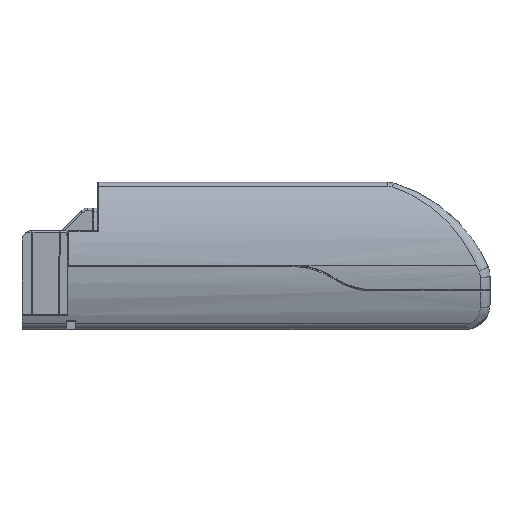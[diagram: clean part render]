
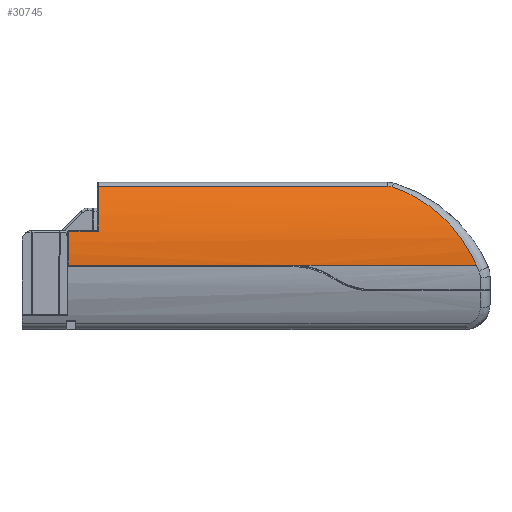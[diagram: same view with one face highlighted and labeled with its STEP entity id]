
A CAD part, top view. The second image highlights one B-rep face of the part: STEP entity #30745.
In plain terms, the highlighted cylindrical face has radius 26.4 mm (diameter 52.8 mm), a partial arc.
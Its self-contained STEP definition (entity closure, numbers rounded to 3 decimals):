
#232 = CARTESIAN_POINT ( 'NONE',  ( 79.9, 21.403, 0.24 ) ) ;
#3151 = CARTESIAN_POINT ( 'NONE',  ( 73.664, 24.373, -1.705 ) ) ;
#3645 = CARTESIAN_POINT ( 'NONE',  ( 90.76, 8.5, 3.6 ) ) ;
#4077 = CARTESIAN_POINT ( 'NONE',  ( 93.5, 8.5, 3.6 ) ) ;
#4116 = CIRCLE ( 'NONE', #54507, 26.4 ) ;
#5064 = CARTESIAN_POINT ( 'NONE',  ( 75.585, 23.741, -1.229 ) ) ;
#8663 = DIRECTION ( 'NONE',  ( -1., 0., 0. ) ) ;
#9399 = ORIENTED_EDGE ( 'NONE', *, *, #58933, .F. ) ;
#9592 = CARTESIAN_POINT ( 'NONE',  ( 87.45, 14.229, 2.974 ) ) ;
#10518 = VECTOR ( 'NONE', #21592, 1000. ) ;
#11956 = B_SPLINE_CURVE_WITH_KNOTS ( 'NONE', 3,
 ( #21889, #12443, #59165, #54843 ),
 .UNSPECIFIED., .F., .F.,
 ( 4, 4 ),
 ( 0., 0.001 ),
 .UNSPECIFIED. ) ;
#12144 = CARTESIAN_POINT ( 'NONE',  ( 14., 8.5, -22.8 ) ) ;
#12443 = CARTESIAN_POINT ( 'NONE',  ( 73.384, 24.465, -1.774 ) ) ;
#14352 = ORIENTED_EDGE ( 'NONE', *, *, #50816, .T. ) ;
#14388 = CARTESIAN_POINT ( 'NONE',  ( 86.516, 15.436, 2.676 ) ) ;
#16075 = CARTESIAN_POINT ( 'NONE',  ( 93.5, 15.352, 2.695 ) ) ;
#16290 = CARTESIAN_POINT ( 'NONE',  ( 14., 24.513, -1.811 ) ) ;
#16922 = DIRECTION ( 'NONE',  ( 0., 0., -1. ) ) ;
#18774 = B_SPLINE_CURVE_WITH_KNOTS ( 'NONE', 3,
 ( #27325, #27529, #37038, #9592, #42648, #14388, #47314, #19172, #52033, #23839, #56757, #28598, #232, #33340, #5064, #38103 ),
 .UNSPECIFIED., .F., .F.,
 ( 4, 2, 2, 2, 2, 2, 2, 4 ),
 ( 0.001, 0.007, 0.009, 0.01, 0.014, 0.017, 0.02, 0.026 ),
 .UNSPECIFIED. ) ;
#19172 = CARTESIAN_POINT ( 'NONE',  ( 85.204, 16.957, 2.221 ) ) ;
#20163 = ORIENTED_EDGE ( 'NONE', *, *, #55474, .T. ) ;
#20910 = CARTESIAN_POINT ( 'NONE',  ( 93.5, 8.5, -22.8 ) ) ;
#21592 = DIRECTION ( 'NONE',  ( -1., 0., 0. ) ) ;
#21889 = CARTESIAN_POINT ( 'NONE',  ( 73.664, 24.373, -1.705 ) ) ;
#22348 = DIRECTION ( 'NONE',  ( -1., 0., 0. ) ) ;
#22512 = EDGE_CURVE ( 'NONE', #34370, #29934, #28576, .T. ) ;
#23839 = CARTESIAN_POINT ( 'NONE',  ( 83.062, 19.022, 1.424 ) ) ;
#24838 = ORIENTED_EDGE ( 'NONE', *, *, #40024, .T. ) ;
#26034 = VERTEX_POINT ( 'NONE', #49719 ) ;
#26050 = EDGE_CURVE ( 'NONE', #40002, #40979, #11956, .T. ) ;
#27325 = CARTESIAN_POINT ( 'NONE',  ( 90.76, 8.5, 3.6 ) ) ;
#27529 = CARTESIAN_POINT ( 'NONE',  ( 89.924, 10.384, 3.6 ) ) ;
#27725 = VERTEX_POINT ( 'NONE', #3645 ) ;
#27973 = CYLINDRICAL_SURFACE ( 'NONE', #54236, 26.4 ) ;
#28226 = DIRECTION ( 'NONE',  ( 1., 0., 0. ) ) ;
#28576 = CIRCLE ( 'NONE', #48911, 26.4 ) ;
#28598 = CARTESIAN_POINT ( 'NONE',  ( 80.718, 20.852, 0.542 ) ) ;
#28753 = VECTOR ( 'NONE', #48977, 1000. ) ;
#29329 = VECTOR ( 'NONE', #22348, 1000. ) ;
#29934 = VERTEX_POINT ( 'NONE', #37526 ) ;
#30158 = EDGE_CURVE ( 'NONE', #29934, #26034, #53779, .T. ) ;
#30745 = ADVANCED_FACE ( 'NONE', ( #57422 ), #27973, .T. ) ;
#32152 = VERTEX_POINT ( 'NONE', #54467 ) ;
#32823 = CARTESIAN_POINT ( 'NONE',  ( 8., 8.5, 3.6 ) ) ;
#33340 = CARTESIAN_POINT ( 'NONE',  ( 77.371, 22.914, -0.651 ) ) ;
#34127 = LINE ( 'NONE', #54551, #10518 ) ;
#34370 = VERTEX_POINT ( 'NONE', #16290 ) ;
#36905 = ORIENTED_EDGE ( 'NONE', *, *, #30158, .T. ) ;
#37038 = CARTESIAN_POINT ( 'NONE',  ( 88.92, 12.154, 3.401 ) ) ;
#37526 = CARTESIAN_POINT ( 'NONE',  ( 14., 15.352, 2.695 ) ) ;
#38103 = CARTESIAN_POINT ( 'NONE',  ( 73.664, 24.373, -1.705 ) ) ;
#38731 = ORIENTED_EDGE ( 'NONE', *, *, #41137, .F. ) ;
#40002 = VERTEX_POINT ( 'NONE', #3151 ) ;
#40024 = EDGE_CURVE ( 'NONE', #27725, #40002, #18774, .T. ) ;
#40979 = VERTEX_POINT ( 'NONE', #59139 ) ;
#41137 = EDGE_CURVE ( 'NONE', #27725, #32152, #52067, .T. ) ;
#42648 = CARTESIAN_POINT ( 'NONE',  ( 87.144, 14.638, 2.88 ) ) ;
#44564 = DIRECTION ( 'NONE',  ( 0., 0., 1. ) ) ;
#45082 = DIRECTION ( 'NONE',  ( 1., 0., 0. ) ) ;
#47314 = CARTESIAN_POINT ( 'NONE',  ( 86.194, 15.824, 2.567 ) ) ;
#48911 = AXIS2_PLACEMENT_3D ( 'NONE', #12144, #45082, #16922 ) ;
#48977 = DIRECTION ( 'NONE',  ( -1., 0., 0. ) ) ;
#49719 = CARTESIAN_POINT ( 'NONE',  ( 8., 15.352, 2.695 ) ) ;
#50582 = CARTESIAN_POINT ( 'NONE',  ( -1.5, 8.5, 3.6 ) ) ;
#50585 = ORIENTED_EDGE ( 'NONE', *, *, #26050, .T. ) ;
#50618 = VECTOR ( 'NONE', #8663, 1000. ) ;
#50816 = EDGE_CURVE ( 'NONE', #26034, #57449, #4116, .T. ) ;
#52033 = CARTESIAN_POINT ( 'NONE',  ( 84.512, 17.671, 1.966 ) ) ;
#52067 = LINE ( 'NONE', #4077, #50618 ) ;
#53779 = LINE ( 'NONE', #16075, #28753 ) ;
#53850 = DIRECTION ( 'NONE',  ( -1., 0., 0. ) ) ;
#54236 = AXIS2_PLACEMENT_3D ( 'NONE', #20910, #53850, #44564 ) ;
#54347 = LINE ( 'NONE', #50582, #29329 ) ;
#54467 = CARTESIAN_POINT ( 'NONE',  ( 53.5, 8.5, 3.6 ) ) ;
#54507 = AXIS2_PLACEMENT_3D ( 'NONE', #56422, #28226, #61200 ) ;
#54551 = CARTESIAN_POINT ( 'NONE',  ( 93.5, 24.513, -1.811 ) ) ;
#54843 = CARTESIAN_POINT ( 'NONE',  ( 72.791, 24.513, -1.811 ) ) ;
#55474 = EDGE_CURVE ( 'NONE', #40979, #34370, #34127, .T. ) ;
#55834 = EDGE_LOOP ( 'NONE', ( #38731, #24838, #50585, #20163, #57645, #36905, #14352, #9399 ) ) ;
#56422 = CARTESIAN_POINT ( 'NONE',  ( 8., 8.5, -22.8 ) ) ;
#56757 = CARTESIAN_POINT ( 'NONE',  ( 82.305, 19.658, 1.135 ) ) ;
#57422 = FACE_OUTER_BOUND ( 'NONE', #55834, .T. ) ;
#57449 = VERTEX_POINT ( 'NONE', #32823 ) ;
#57645 = ORIENTED_EDGE ( 'NONE', *, *, #22512, .T. ) ;
#58933 = EDGE_CURVE ( 'NONE', #32152, #57449, #54347, .T. ) ;
#59139 = CARTESIAN_POINT ( 'NONE',  ( 72.791, 24.513, -1.811 ) ) ;
#59165 = CARTESIAN_POINT ( 'NONE',  ( 73.094, 24.513, -1.811 ) ) ;
#61200 = DIRECTION ( 'NONE',  ( 0., 0., -1. ) ) ;
